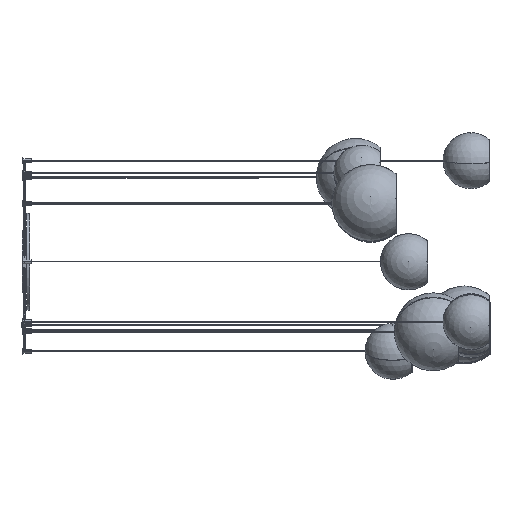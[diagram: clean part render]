
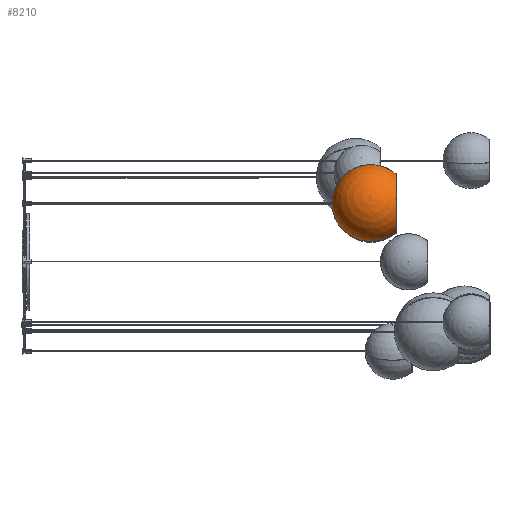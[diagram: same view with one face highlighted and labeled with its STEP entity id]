
A CAD part, left-side view. The second image highlights one B-rep face of the part: STEP entity #8210.
In plain terms, the highlighted spherical face has radius 125 mm.
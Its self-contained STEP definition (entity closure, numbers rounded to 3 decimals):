
#693 = DIRECTION ( 'NONE',  ( 0., 0., 1. ) ) ;
#1272 = CARTESIAN_POINT ( 'NONE',  ( 0., 205.984, -2. ) ) ;
#1276 = VERTEX_POINT ( 'NONE', #1272 ) ;
#1540 = CARTESIAN_POINT ( 'NONE',  ( 0., 81., 0. ) ) ;
#1548 = DIRECTION ( 'NONE',  ( 1., 0., 0. ) ) ;
#1973 = CARTESIAN_POINT ( 'NONE',  ( 2., 205.984, 0. ) ) ;
#1975 = AXIS2_PLACEMENT_3D ( 'NONE', #5145, #7767, #1548 ) ;
#2134 = CIRCLE ( 'NONE', #5726, 125. ) ;
#2442 = FACE_OUTER_BOUND ( 'NONE', #9462, .T. ) ;
#2743 = ORIENTED_EDGE ( 'NONE', *, *, #3872, .T. ) ;
#3359 = CIRCLE ( 'NONE', #9651, 2. ) ;
#3609 = VERTEX_POINT ( 'NONE', #1973 ) ;
#3653 = DIRECTION ( 'NONE',  ( 0., -1., 0. ) ) ;
#3872 = EDGE_CURVE ( 'NONE', #1276, #3609, #3359, .T. ) ;
#4137 = CIRCLE ( 'NONE', #8449, 125. ) ;
#4141 = DIRECTION ( 'NONE',  ( 1., 0., 0. ) ) ;
#4969 = CARTESIAN_POINT ( 'NONE',  ( -95.205, 0., 0. ) ) ;
#5145 = CARTESIAN_POINT ( 'NONE',  ( 0., 81., 0. ) ) ;
#5152 = CARTESIAN_POINT ( 'NONE',  ( 0., 205.984, 0. ) ) ;
#5254 = VERTEX_POINT ( 'NONE', #10555 ) ;
#5343 = AXIS2_PLACEMENT_3D ( 'NONE', #8375, #6740, #10339 ) ;
#5670 = VERTEX_POINT ( 'NONE', #7188 ) ;
#5690 = CIRCLE ( 'NONE', #10009, 95.205 ) ;
#5726 = AXIS2_PLACEMENT_3D ( 'NONE', #1540, #693, #4141 ) ;
#5754 = VERTEX_POINT ( 'NONE', #4969 ) ;
#5844 = EDGE_CURVE ( 'NONE', #5254, #5754, #2134, .T. ) ;
#6680 = EDGE_CURVE ( 'NONE', #3609, #5670, #4137, .T. ) ;
#6740 = DIRECTION ( 'NONE',  ( 0., -1., 0. ) ) ;
#6814 = DIRECTION ( 'NONE',  ( 0., -1., 0. ) ) ;
#7187 = ORIENTED_EDGE ( 'NONE', *, *, #5844, .F. ) ;
#7188 = CARTESIAN_POINT ( 'NONE',  ( 95.205, 0., 0. ) ) ;
#7725 = CARTESIAN_POINT ( 'NONE',  ( 0., 81., 0. ) ) ;
#7767 = DIRECTION ( 'NONE',  ( 0., 0., 1. ) ) ;
#7829 = DIRECTION ( 'NONE',  ( -1., 0., 0. ) ) ;
#7876 = DIRECTION ( 'NONE',  ( 0., 0., -1. ) ) ;
#7949 = ORIENTED_EDGE ( 'NONE', *, *, #6680, .T. ) ;
#8175 = ORIENTED_EDGE ( 'NONE', *, *, #9264, .T. ) ;
#8210 = ADVANCED_FACE ( 'NONE', ( #2442 ), #9269, .T. ) ;
#8375 = CARTESIAN_POINT ( 'NONE',  ( 0., 205.984, 0. ) ) ;
#8449 = AXIS2_PLACEMENT_3D ( 'NONE', #7725, #8716, #7829 ) ;
#8716 = DIRECTION ( 'NONE',  ( 0., 0., -1. ) ) ;
#8835 = EDGE_CURVE ( 'NONE', #5754, #5670, #5690, .T. ) ;
#9166 = ORIENTED_EDGE ( 'NONE', *, *, #8835, .F. ) ;
#9264 = EDGE_CURVE ( 'NONE', #5254, #1276, #9853, .T. ) ;
#9269 = SPHERICAL_SURFACE ( 'NONE', #1975, 125. ) ;
#9341 = DIRECTION ( 'NONE',  ( 0., 0., -1. ) ) ;
#9462 = EDGE_LOOP ( 'NONE', ( #7187, #8175, #2743, #7949, #9166 ) ) ;
#9651 = AXIS2_PLACEMENT_3D ( 'NONE', #5152, #3653, #7876 ) ;
#9853 = CIRCLE ( 'NONE', #5343, 2. ) ;
#10009 = AXIS2_PLACEMENT_3D ( 'NONE', #11086, #6814, #9341 ) ;
#10339 = DIRECTION ( 'NONE',  ( 0., 0., -1. ) ) ;
#10555 = CARTESIAN_POINT ( 'NONE',  ( -2., 205.984, 0. ) ) ;
#11086 = CARTESIAN_POINT ( 'NONE',  ( 0., 0., 0. ) ) ;
